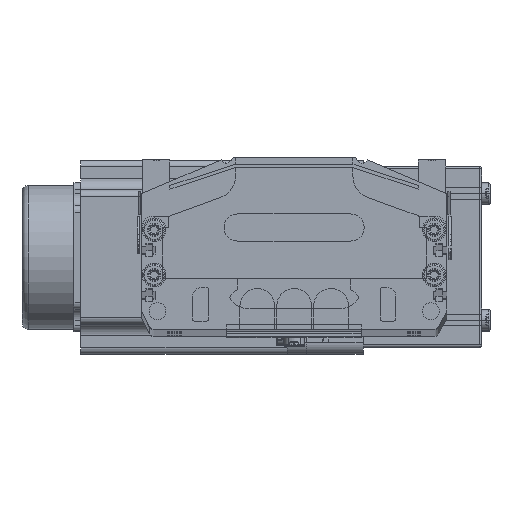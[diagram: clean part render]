
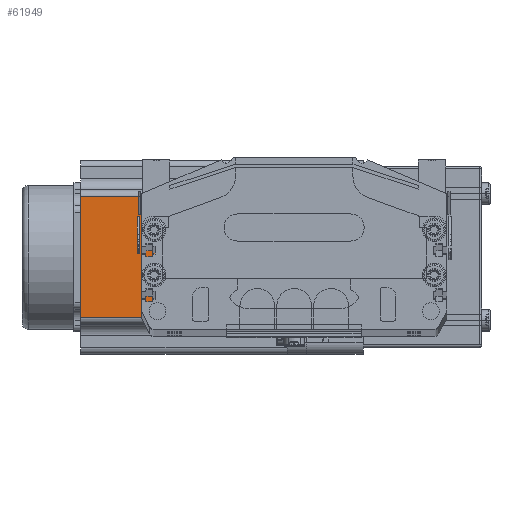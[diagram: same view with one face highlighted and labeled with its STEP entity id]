
A CAD part, top view. The second image highlights one B-rep face of the part: STEP entity #61949.
In plain terms, the highlighted planar face has unit normal (0, 0, 1) as drawn and (-1, 0, 0) by its records, which use the part's own axes.
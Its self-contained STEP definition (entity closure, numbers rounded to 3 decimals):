
#43822 = CARTESIAN_POINT ( 'NONE',  ( 0., 16.16, 91.5 ) ) ;
#55455 = DIRECTION ( 'NONE',  ( 0., -1., 0. ) ) ;
#55456 = VECTOR ( 'NONE', #55455, 1000. ) ;
#55459 = CARTESIAN_POINT ( 'NONE',  ( 0., 0., 0. ) ) ;
#55461 = LINE ( 'NONE', #55459, #55456 ) ;
#55957 = CARTESIAN_POINT ( 'NONE',  ( 0., 16.16, 0. ) ) ;
#56317 = CARTESIAN_POINT ( 'NONE',  ( 0., 69.74, 0. ) ) ;
#56568 = DIRECTION ( 'NONE',  ( 1., 0., 0. ) ) ;
#56573 = FACE_OUTER_BOUND ( 'NONE', #61748, .T. ) ;
#56576 = DIRECTION ( 'NONE',  ( 0., 0., 1. ) ) ;
#56578 = VECTOR ( 'NONE', #56576, 1000. ) ;
#56580 = CARTESIAN_POINT ( 'NONE',  ( 0., 16.16, 91.5 ) ) ;
#56582 = LINE ( 'NONE', #56580, #56578 ) ;
#56626 = CARTESIAN_POINT ( 'NONE',  ( 0., 0., 91.5 ) ) ;
#56889 = DIRECTION ( 'NONE',  ( 0., -1., 0. ) ) ;
#56890 = VECTOR ( 'NONE', #56889, 1000. ) ;
#56932 = CARTESIAN_POINT ( 'NONE',  ( 0., 0., 91.5 ) ) ;
#56934 = LINE ( 'NONE', #56932, #56890 ) ;
#56976 = CARTESIAN_POINT ( 'NONE',  ( 0., 69.74, 91.5 ) ) ;
#57068 = DIRECTION ( 'NONE',  ( 0., 0., -1. ) ) ;
#57079 = PLANE ( 'NONE',  #57119 ) ;
#57119 = AXIS2_PLACEMENT_3D ( 'NONE', #56626, #56568, #57068 ) ;
#61332 = VERTEX_POINT ( 'NONE', #43822 ) ;
#61654 = VERTEX_POINT ( 'NONE', #56317 ) ;
#61655 = VERTEX_POINT ( 'NONE', #55957 ) ;
#61739 = EDGE_CURVE ( 'NONE', #61654, #61655, #55461, .T. ) ;
#61748 = EDGE_LOOP ( 'NONE', ( #61943, #61869, #61825, #62365 ) ) ;
#61825 = ORIENTED_EDGE ( 'NONE', *, *, #61888, .F. ) ;
#61869 = ORIENTED_EDGE ( 'NONE', *, *, #61942, .T. ) ;
#61871 = VERTEX_POINT ( 'NONE', #56976 ) ;
#61888 = EDGE_CURVE ( 'NONE', #61871, #61332, #56934, .T. ) ;
#61942 = EDGE_CURVE ( 'NONE', #61655, #61332, #56582, .T. ) ;
#61943 = ORIENTED_EDGE ( 'NONE', *, *, #61739, .T. ) ;
#61949 = ADVANCED_FACE ( 'NONE', ( #56573 ), #57079, .F. ) ;
#62236 = EDGE_CURVE ( 'NONE', #61871, #61654, #83126, .T. ) ;
#62365 = ORIENTED_EDGE ( 'NONE', *, *, #62236, .T. ) ;
#83026 = DIRECTION ( 'NONE',  ( 0., 0., -1. ) ) ;
#83027 = VECTOR ( 'NONE', #83026, 1000. ) ;
#83125 = CARTESIAN_POINT ( 'NONE',  ( 0., 69.74, 91.5 ) ) ;
#83126 = LINE ( 'NONE', #83125, #83027 ) ;
